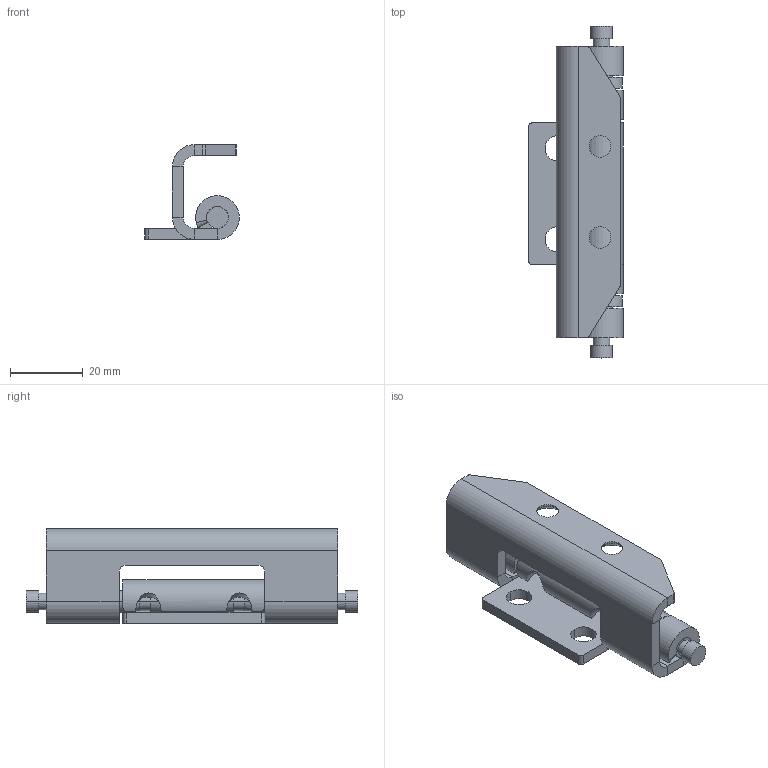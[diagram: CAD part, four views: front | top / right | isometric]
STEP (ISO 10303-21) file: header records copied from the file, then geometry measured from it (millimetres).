
FILE_DESCRIPTION((''),'2;1');
FILE_NAME('YOUZU_ASM','2016-07-13T',('master'),(''),'PRO/ENGINEER BY PARAMETRIC TECHNOLOGY CORPORATION, 2009060','PRO/ENGINEER BY PARAMETRIC TECHNOLOGY CORPORATION, 2009060','');
FILE_SCHEMA(('CONFIG_CONTROL_DESIGN'));
Length unit declared in the file: millimetre
Products named in the file (5): JINGJIAOLIANYOU; DONGJIAOLIAN; ZHUANZHOU; KABAN; YOUZU_ASM
Assembly tree (6 placements, depth 2):
  YOUZU_ASM
    JINGJIAOLIANYOU
    DONGJIAOLIAN
    ZHUANZHOU  x2
    KABAN  x2
Bounding box: 26 x 91.2 x 26 mm (x, y, z)
Volume: 16908.3 mm3; surface area: 14102.5 mm2
Topology: 6 solids, 6 shells, 168 faces, 380 edges, 230 vertices
Faces by surface type: plane 72, cylinder 68, cone 16, bspline 12
Entity records: 4584 total; most frequent: CARTESIAN_POINT 1334, DIRECTION 672, ORIENTED_EDGE 636, EDGE_CURVE 318, AXIS2_PLACEMENT_3D 243, VERTEX_POINT 192, VECTOR 186, LINE 186
